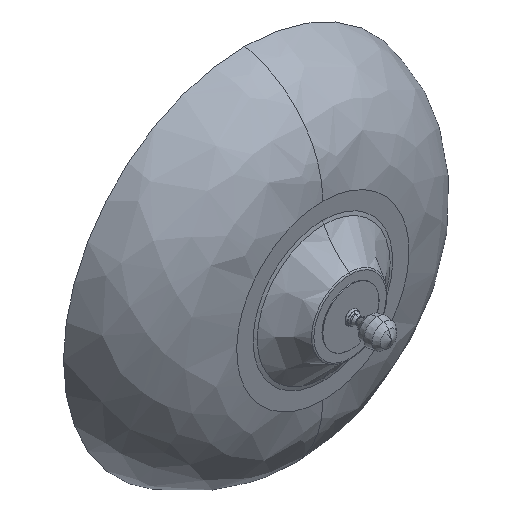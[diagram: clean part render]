
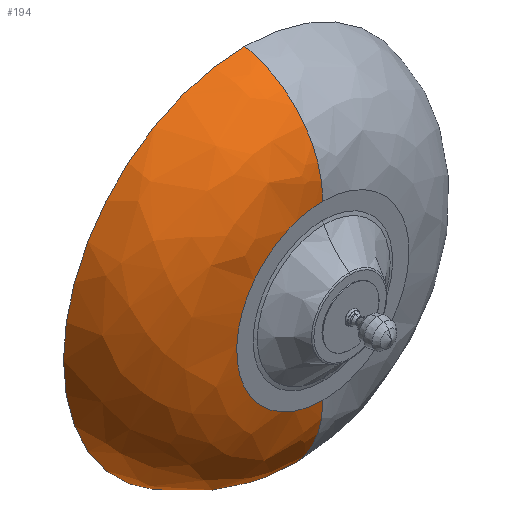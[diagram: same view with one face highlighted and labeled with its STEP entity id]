
A CAD part, isometric view. The second image highlights one B-rep face of the part: STEP entity #194.
In plain terms, the highlighted free-form (B-spline) face has degree [3, 3] with [4, 4] control points.
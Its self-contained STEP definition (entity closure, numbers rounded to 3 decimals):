
#34 =( BOUNDED_CURVE ( )  B_SPLINE_CURVE ( 3, ( #2682, #2700, #2780, #2750 ),
 .UNSPECIFIED., .F., .F. ) 
 B_SPLINE_CURVE_WITH_KNOTS ( ( 4, 4 ),
 ( 0., 1. ),
 .UNSPECIFIED. ) 
 CURVE ( )  GEOMETRIC_REPRESENTATION_ITEM ( )  RATIONAL_B_SPLINE_CURVE ( ( 1., 0.847, 0.847, 1. ) ) 
 REPRESENTATION_ITEM ( '' )  );
#78 = CARTESIAN_POINT ( 'NONE',  ( 0., 56., 3. ) ) ;
#104 = EDGE_CURVE ( 'NONE', #1526, #2188, #2093, .T. ) ;
#194 = ADVANCED_FACE ( 'NONE', ( #1833 ), #1760, .T. ) ;
#242 = CARTESIAN_POINT ( 'NONE',  ( 0., -30., -92. ) ) ;
#257 = CARTESIAN_POINT ( 'NONE',  ( 0., -30., 98. ) ) ;
#310 = EDGE_CURVE ( 'NONE', #2009, #2222, #744, .T. ) ;
#422 = CARTESIAN_POINT ( 'NONE',  ( 0., 3.582, 192.735 ) ) ;
#640 = DIRECTION ( 'NONE',  ( 0., 1., 0. ) ) ;
#677 = CARTESIAN_POINT ( 'NONE',  ( 0., 56., -197. ) ) ;
#739 = EDGE_CURVE ( 'NONE', #1526, #2009, #34, .T. ) ;
#744 = CIRCLE ( 'NONE', #1017, 200. ) ;
#793 = CARTESIAN_POINT ( 'NONE',  ( -190., -30., -92. ) ) ;
#896 = CARTESIAN_POINT ( 'NONE',  ( 0., 56., 203. ) ) ;
#908 = CARTESIAN_POINT ( 'NONE',  ( -296.826, -30.263, -145.413 ) ) ;
#1017 = AXIS2_PLACEMENT_3D ( 'NONE', #78, #640, #2454 ) ;
#1092 = ORIENTED_EDGE ( 'NONE', *, *, #104, .T. ) ;
#1180 = CARTESIAN_POINT ( 'NONE',  ( -190., -30., 98. ) ) ;
#1216 = CARTESIAN_POINT ( 'NONE',  ( 0., 56., -197. ) ) ;
#1358 = CARTESIAN_POINT ( 'NONE',  ( -379.47, 3.582, 192.735 ) ) ;
#1419 = CARTESIAN_POINT ( 'NONE',  ( 0., -30., -92. ) ) ;
#1428 = CARTESIAN_POINT ( 'NONE',  ( 0., 3.582, -186.735 ) ) ;
#1440 = CARTESIAN_POINT ( 'NONE',  ( 0., -30.263, 151.413 ) ) ;
#1444 = CARTESIAN_POINT ( 'NONE',  ( 0., -30., 98. ) ) ;
#1449 = CARTESIAN_POINT ( 'NONE',  ( -296.826, -30.263, 151.413 ) ) ;
#1470 = CARTESIAN_POINT ( 'NONE',  ( -190., -30., -92. ) ) ;
#1526 = VERTEX_POINT ( 'NONE', #1964 ) ;
#1560 = CARTESIAN_POINT ( 'NONE',  ( 0., -30.263, -145.413 ) ) ;
#1630 = EDGE_LOOP ( 'NONE', ( #1699, #1092, #1633, #2611 ) ) ;
#1633 = ORIENTED_EDGE ( 'NONE', *, *, #1824, .T. ) ;
#1661 = CARTESIAN_POINT ( 'NONE',  ( 0., 3.582, 192.735 ) ) ;
#1699 = ORIENTED_EDGE ( 'NONE', *, *, #739, .F. ) ;
#1760 =( BOUNDED_SURFACE ( )  B_SPLINE_SURFACE ( 3, 3, ( 
 ( #1444, #2296, #1470, #1419 ),
 ( #1440, #1449, #908, #1560 ),
 ( #1661, #1358, #2260, #1428 ),
 ( #896, #1799, #1810, #677 ) ),
 .UNSPECIFIED., .F., .F., .F. ) 
 B_SPLINE_SURFACE_WITH_KNOTS ( ( 4, 4 ),
 ( 4, 4 ),
 ( 0., 1. ),
 ( 0., 1. ),
 .UNSPECIFIED. ) 
 GEOMETRIC_REPRESENTATION_ITEM ( )  RATIONAL_B_SPLINE_SURFACE ( (
 ( 1., 0.333, 0.333, 1.),
 ( 0.847, 0.282, 0.282, 0.847),
 ( 0.847, 0.282, 0.282, 0.847),
 ( 1., 0.333, 0.333, 1.) ) ) 
 REPRESENTATION_ITEM ( '' )  SURFACE ( )  );
#1799 = CARTESIAN_POINT ( 'NONE',  ( -400., 56., 203. ) ) ;
#1810 = CARTESIAN_POINT ( 'NONE',  ( -400., 56., -197. ) ) ;
#1824 = EDGE_CURVE ( 'NONE', #2188, #2222, #2705, .T. ) ;
#1833 = FACE_OUTER_BOUND ( 'NONE', #1630, .T. ) ;
#1964 = CARTESIAN_POINT ( 'NONE',  ( 0., -30., -92. ) ) ;
#1969 = CARTESIAN_POINT ( 'NONE',  ( 0., 56., 203. ) ) ;
#2009 = VERTEX_POINT ( 'NONE', #1216 ) ;
#2093 =( BOUNDED_CURVE ( )  B_SPLINE_CURVE ( 3, ( #242, #793, #1180, #257 ),
 .UNSPECIFIED., .F., .F. ) 
 B_SPLINE_CURVE_WITH_KNOTS ( ( 4, 4 ),
 ( 0., 1. ),
 .UNSPECIFIED. ) 
 CURVE ( )  GEOMETRIC_REPRESENTATION_ITEM ( )  RATIONAL_B_SPLINE_CURVE ( ( 1., 0.333, 0.333, 1. ) ) 
 REPRESENTATION_ITEM ( '' )  );
#2161 = CARTESIAN_POINT ( 'NONE',  ( 0., -30.263, 151.413 ) ) ;
#2188 = VERTEX_POINT ( 'NONE', #2538 ) ;
#2222 = VERTEX_POINT ( 'NONE', #1969 ) ;
#2260 = CARTESIAN_POINT ( 'NONE',  ( -379.47, 3.582, -186.735 ) ) ;
#2295 = CARTESIAN_POINT ( 'NONE',  ( 0., 56., 203. ) ) ;
#2296 = CARTESIAN_POINT ( 'NONE',  ( -190., -30., 98. ) ) ;
#2454 = DIRECTION ( 'NONE',  ( 0., 0., -1. ) ) ;
#2538 = CARTESIAN_POINT ( 'NONE',  ( 0., -30., 98. ) ) ;
#2602 = CARTESIAN_POINT ( 'NONE',  ( 0., -30., 98. ) ) ;
#2611 = ORIENTED_EDGE ( 'NONE', *, *, #310, .F. ) ;
#2682 = CARTESIAN_POINT ( 'NONE',  ( 0., -30., -92. ) ) ;
#2700 = CARTESIAN_POINT ( 'NONE',  ( 0., -30.263, -145.413 ) ) ;
#2705 =( BOUNDED_CURVE ( )  B_SPLINE_CURVE ( 3, ( #2602, #2161, #422, #2295 ),
 .UNSPECIFIED., .F., .F. ) 
 B_SPLINE_CURVE_WITH_KNOTS ( ( 4, 4 ),
 ( 0., 1. ),
 .UNSPECIFIED. ) 
 CURVE ( )  GEOMETRIC_REPRESENTATION_ITEM ( )  RATIONAL_B_SPLINE_CURVE ( ( 1., 0.847, 0.847, 1. ) ) 
 REPRESENTATION_ITEM ( '' )  );
#2750 = CARTESIAN_POINT ( 'NONE',  ( 0., 56., -197. ) ) ;
#2780 = CARTESIAN_POINT ( 'NONE',  ( 0., 3.582, -186.735 ) ) ;
